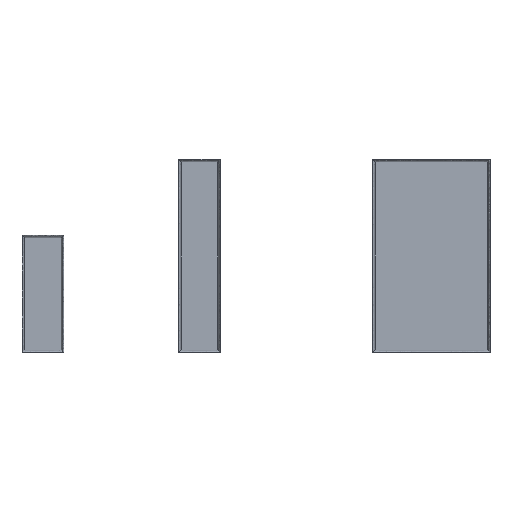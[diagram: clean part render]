
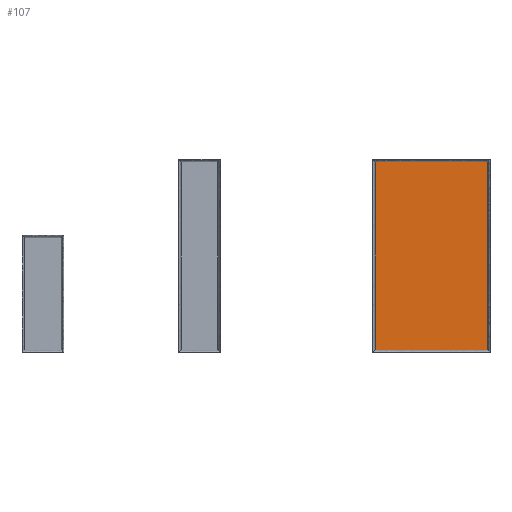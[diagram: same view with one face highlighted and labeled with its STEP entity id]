
A CAD part, front view. The second image highlights one B-rep face of the part: STEP entity #107.
In plain terms, the highlighted planar face has unit normal (0, -1, 0).
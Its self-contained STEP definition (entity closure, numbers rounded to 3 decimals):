
#24=PLANE('',#1292);
#107=ADVANCED_FACE('',(#185),#24,.T.);
#185=FACE_OUTER_BOUND('',#263,.T.);
#263=EDGE_LOOP('',(#413,#414,#415,#416));
#413=ORIENTED_EDGE('',*,*,#699,.F.);
#414=ORIENTED_EDGE('',*,*,#696,.F.);
#415=ORIENTED_EDGE('',*,*,#693,.F.);
#416=ORIENTED_EDGE('',*,*,#689,.F.);
#689=EDGE_CURVE('',#1104,#1105,#906,.T.);
#693=EDGE_CURVE('',#1105,#1108,#910,.T.);
#696=EDGE_CURVE('',#1108,#1110,#913,.T.);
#699=EDGE_CURVE('',#1110,#1104,#916,.T.);
#906=B_SPLINE_CURVE_WITH_KNOTS('',1,(#2059,#2060),.UNSPECIFIED.,.F.,.F.,
(2,2),(0.,1500.),.UNSPECIFIED.);
#910=B_SPLINE_CURVE_WITH_KNOTS('',1,(#2067,#2068),.UNSPECIFIED.,.F.,.F.,
(2,2),(1500.,2400.),.UNSPECIFIED.);
#913=B_SPLINE_CURVE_WITH_KNOTS('',1,(#2073,#2074),.UNSPECIFIED.,.F.,.F.,
(2,2),(2400.,3900.),.UNSPECIFIED.);
#916=B_SPLINE_CURVE_WITH_KNOTS('',1,(#2079,#2080),.UNSPECIFIED.,.F.,.F.,
(2,2),(3900.,4800.),.UNSPECIFIED.);
#1104=VERTEX_POINT('',#2051);
#1105=VERTEX_POINT('',#2052);
#1108=VERTEX_POINT('',#2055);
#1110=VERTEX_POINT('',#2057);
#1292=AXIS2_PLACEMENT_3D('',#2049,#1315,$);
#1315=DIRECTION('',(0.,-1.,0.));
#2049=CARTESIAN_POINT('',(4939.013,-2.,1572.014));
#2051=CARTESIAN_POINT('',(4939.013,-2.,72.014));
#2052=CARTESIAN_POINT('',(4939.013,-2.,1572.014));
#2055=CARTESIAN_POINT('',(5839.013,-2.,1572.014));
#2057=CARTESIAN_POINT('',(5839.013,-2.,72.014));
#2059=CARTESIAN_POINT('',(4939.013,-2.,72.014));
#2060=CARTESIAN_POINT('',(4939.013,-2.,1572.014));
#2067=CARTESIAN_POINT('',(4939.013,-2.,1572.014));
#2068=CARTESIAN_POINT('',(5839.013,-2.,1572.014));
#2073=CARTESIAN_POINT('',(5839.013,-2.,1572.014));
#2074=CARTESIAN_POINT('',(5839.013,-2.,72.014));
#2079=CARTESIAN_POINT('',(5839.013,-2.,72.014));
#2080=CARTESIAN_POINT('',(4939.013,-2.,72.014));
